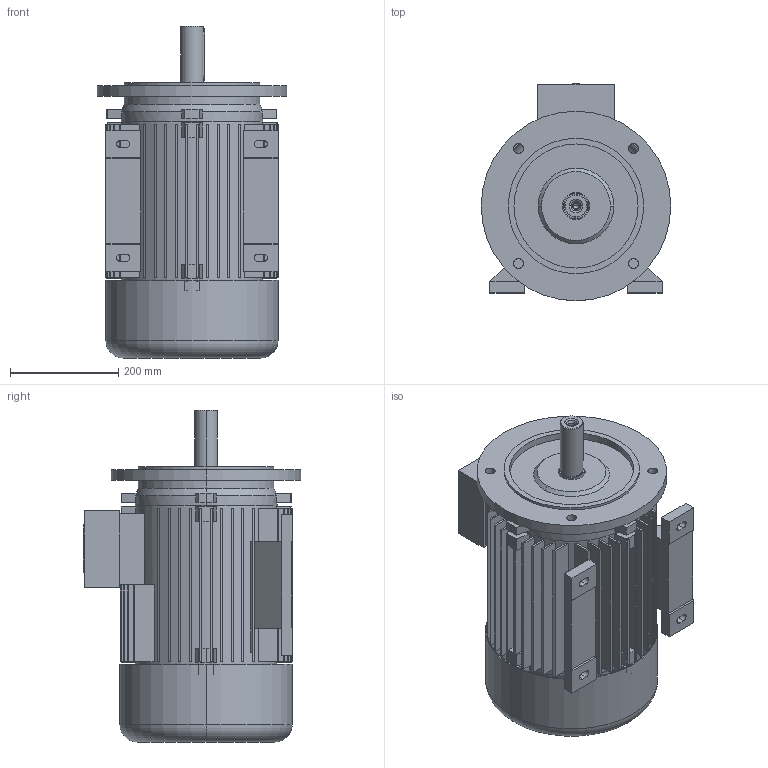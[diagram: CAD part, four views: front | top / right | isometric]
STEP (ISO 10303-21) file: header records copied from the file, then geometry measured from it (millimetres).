
FILE_DESCRIPTION (( 'STEP AP203' ), '1' );
FILE_NAME ('5AZ 160M config.STEP', '2018-07-03T08:28:55', ( '' ), ( '' ), 'SwSTEP 2.0', 'SolidWorks 2018', '' );
FILE_SCHEMA (( 'CONFIG_CONTROL_DESIGN' ));
Length unit declared in the file: millimetre
Products named in the file (1): 5AZ 160M config
Bounding box: 350 x 402 x 613 mm (x, y, z)
Volume: 11791569.8 mm3; surface area: 2382109.9 mm2
Topology: 7 solids, 7 shells, 558 faces, 1443 edges, 951 vertices
Faces by surface type: plane 380, cylinder 152, cone 22, torus 4
Entity records: 17286 total; most frequent: CARTESIAN_POINT 3087, DIRECTION 3027, ORIENTED_EDGE 2882, EDGE_CURVE 1441, AXIS2_PLACEMENT_3D 1047, VERTEX_POINT 951, VECTOR 933, LINE 933
